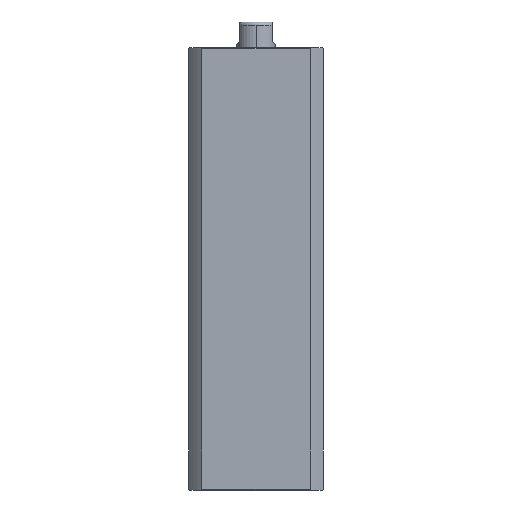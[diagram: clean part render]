
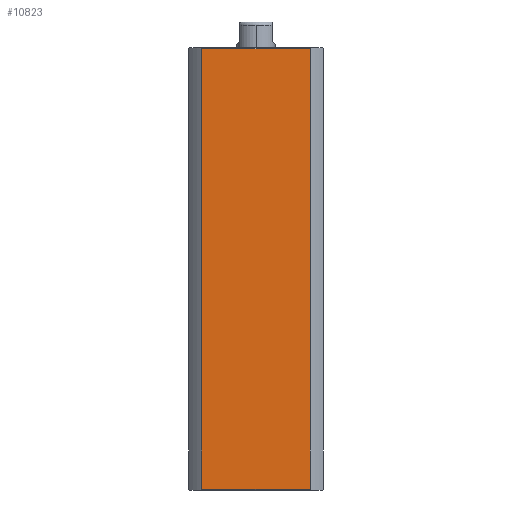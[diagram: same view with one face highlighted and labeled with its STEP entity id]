
A CAD part, left-side view. The second image highlights one B-rep face of the part: STEP entity #10823.
In plain terms, the highlighted planar face has unit normal (-1, 0, 0).
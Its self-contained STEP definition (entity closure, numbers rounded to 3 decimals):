
#290 = VECTOR ( 'NONE', #10274, 1000. ) ;
#991 = CARTESIAN_POINT ( 'NONE',  ( -21., 16.971, 0.3 ) ) ;
#1042 = EDGE_CURVE ( 'NONE', #11842, #11685, #2695, .T. ) ;
#1428 = CARTESIAN_POINT ( 'NONE',  ( -21., -16.971, -162. ) ) ;
#1704 = ORIENTED_EDGE ( 'NONE', *, *, #12148, .T. ) ;
#2408 = EDGE_CURVE ( 'NONE', #8956, #11685, #5094, .T. ) ;
#2695 = LINE ( 'NONE', #4564, #5253 ) ;
#2751 = VECTOR ( 'NONE', #12068, 1000. ) ;
#3462 = ORIENTED_EDGE ( 'NONE', *, *, #1042, .F. ) ;
#3531 = AXIS2_PLACEMENT_3D ( 'NONE', #8780, #4265, #10747 ) ;
#3717 = CARTESIAN_POINT ( 'NONE',  ( -21., 16.971, 137.7 ) ) ;
#4239 = VERTEX_POINT ( 'NONE', #8896 ) ;
#4265 = DIRECTION ( 'NONE',  ( 1., 0., 0. ) ) ;
#4564 = CARTESIAN_POINT ( 'NONE',  ( -21., 16.971, -162. ) ) ;
#4740 = CARTESIAN_POINT ( 'NONE',  ( -21., 21., 137.7 ) ) ;
#5094 = LINE ( 'NONE', #4740, #290 ) ;
#5253 = VECTOR ( 'NONE', #11617, 1000. ) ;
#5603 = LINE ( 'NONE', #6620, #2751 ) ;
#6040 = CARTESIAN_POINT ( 'NONE',  ( -21., -16.971, 137.7 ) ) ;
#6098 = VECTOR ( 'NONE', #9910, 1000. ) ;
#6620 = CARTESIAN_POINT ( 'NONE',  ( -21., 21., 0.3 ) ) ;
#6690 = ORIENTED_EDGE ( 'NONE', *, *, #7348, .F. ) ;
#6766 = FACE_OUTER_BOUND ( 'NONE', #11807, .T. ) ;
#7348 = EDGE_CURVE ( 'NONE', #8956, #4239, #8554, .T. ) ;
#8554 = LINE ( 'NONE', #1428, #6098 ) ;
#8780 = CARTESIAN_POINT ( 'NONE',  ( -21., 21., 138. ) ) ;
#8896 = CARTESIAN_POINT ( 'NONE',  ( -21., -16.971, 0.3 ) ) ;
#8956 = VERTEX_POINT ( 'NONE', #6040 ) ;
#9809 = PLANE ( 'NONE',  #3531 ) ;
#9910 = DIRECTION ( 'NONE',  ( 0., 0., -1. ) ) ;
#10274 = DIRECTION ( 'NONE',  ( 0., 1., 0. ) ) ;
#10747 = DIRECTION ( 'NONE',  ( 0., 1., 0. ) ) ;
#10823 = ADVANCED_FACE ( 'NONE', ( #6766 ), #9809, .F. ) ;
#11396 = ORIENTED_EDGE ( 'NONE', *, *, #2408, .T. ) ;
#11617 = DIRECTION ( 'NONE',  ( 0., 0., 1. ) ) ;
#11685 = VERTEX_POINT ( 'NONE', #3717 ) ;
#11807 = EDGE_LOOP ( 'NONE', ( #3462, #1704, #6690, #11396 ) ) ;
#11842 = VERTEX_POINT ( 'NONE', #991 ) ;
#12068 = DIRECTION ( 'NONE',  ( 0., -1., 0. ) ) ;
#12148 = EDGE_CURVE ( 'NONE', #11842, #4239, #5603, .T. ) ;
